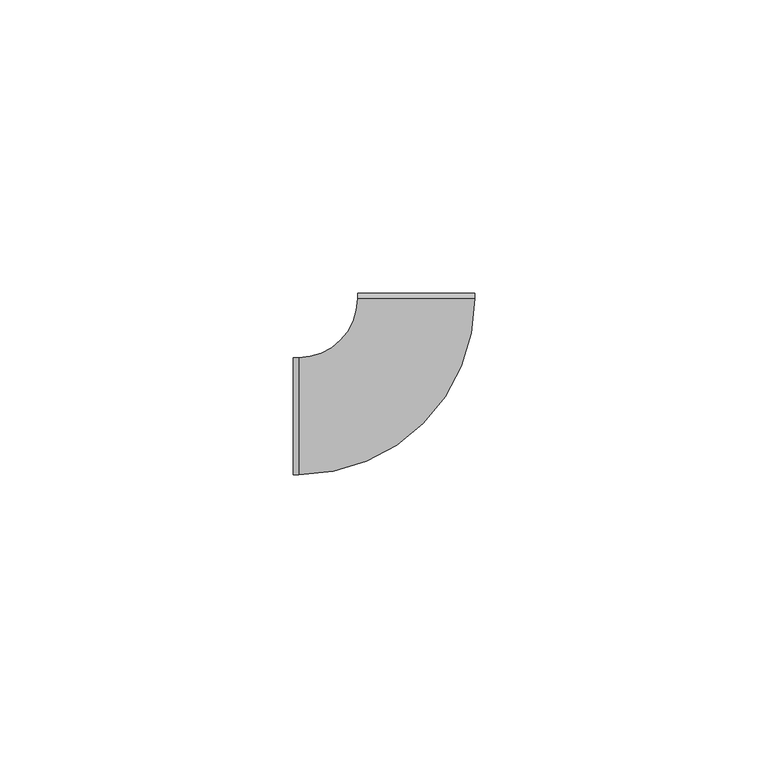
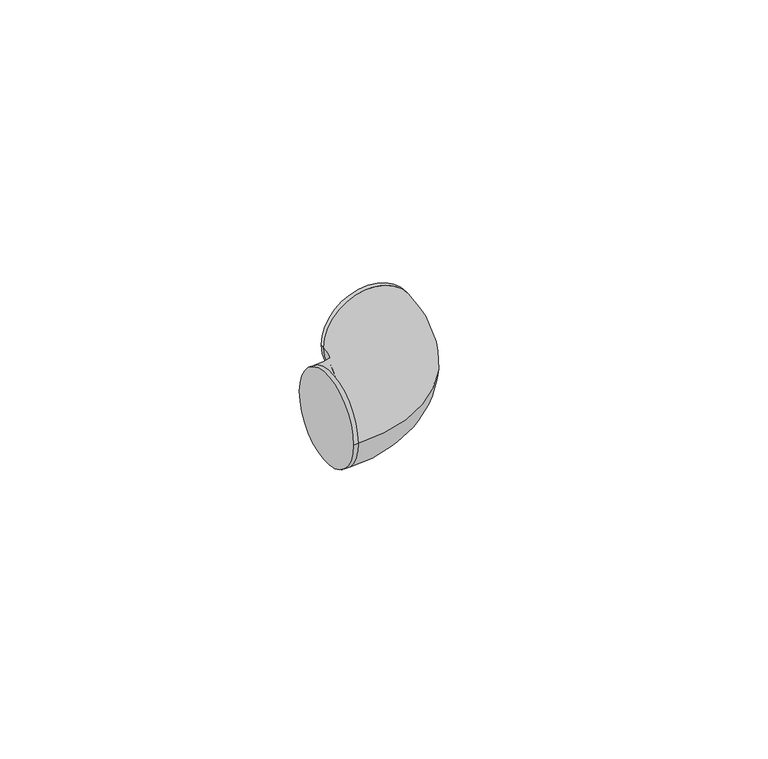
"""IFC4 building model written with IfcOpenShell, lengths in millimetres: cable carrier fitting geometry, ADSK_Поворот_Минимальный размер : Неспецифицируемый."""

import ifcopenshell
import ifcopenshell.guid

model = None  # the IFC model being written
_history = None  # IfcOwnerHistory: only IFC2X3 demands one
_inside = {}  # id of a spatial element -> (the spatial element, [elements in it])
_under = {}  # id of a project, library or spatial element -> (it, [spatial elements below it])
_declared = {}  # id of a project -> (the project, [libraries it declares])
_typed = {}  # id of a type object -> (the type object, [elements of that type])
_made_of = {}  # id of a material, layer set ... -> (it, [elements and type objects made of it])


def new_model(schema):
    """Start an empty IFC model of exactly this schema.

    Asked for "IFC4X3", IfcOpenShell would pick the latest addendum, in which some entities
    have other attributes; the version numbers below select the first issue.
    IFC2X3 requires an IfcOwnerHistory on every rooted entity: one is made here for all.
    """
    global model, _history
    if schema == "IFC4X3":
        model = ifcopenshell.file(schema_version=(4, 3, 0, 0))
    else:
        model = ifcopenshell.file(schema=schema)
    _inside.clear()
    _under.clear()
    _declared.clear()
    _typed.clear()
    _made_of.clear()
    _history = None
    if model.schema == "IFC2X3":
        org = make("IfcOrganization", Name="unknown")
        user = make(
            "IfcPersonAndOrganization",
            ThePerson=make("IfcPerson", FamilyName="unknown"),
            TheOrganization=org,
        )
        app = make(
            "IfcApplication",
            ApplicationDeveloper=org,
            Version="unknown",
            ApplicationFullName="unknown",
            ApplicationIdentifier="unknown",
        )
        _history = make(
            "IfcOwnerHistory",
            OwningUser=user,
            OwningApplication=app,
            ChangeAction="ADDED",
            CreationDate=0,
        )
    return model


def make(cls, **values):
    """One entity of the class cls with the attributes given. An attribute that is None is left unset."""
    return model.create_entity(
        cls, **{name: value for name, value in values.items() if value is not None}
    )


def rooted(cls, **values):
    """An entity with a GlobalId (a new one), such as an element, a storey or a relation."""
    return make(cls, GlobalId=ifcopenshell.guid.new(), OwnerHistory=_history, **values)


def si_unit(unit_type, name, prefix=None):
    """IfcSIUnit, for example si_unit("LENGTHUNIT", "METRE", prefix="MILLI")."""
    return make("IfcSIUnit", UnitType=unit_type, Prefix=prefix, Name=name)


def assignment(units):
    """IfcUnitAssignment: the units of a project."""
    return None if units is None else make("IfcUnitAssignment", Units=units)


def point(xyz):
    """IfcCartesianPoint."""
    return None if xyz is None else make("IfcCartesianPoint", Coordinates=xyz)


def direction(xyz):
    """IfcDirection."""
    return None if xyz is None else make("IfcDirection", DirectionRatios=xyz)


def frame(location, z_axis=None, x_axis=None):
    """IfcAxis2Placement3D, a coordinate frame: its origin and axes. An axis left out is left unset."""
    return make(
        "IfcAxis2Placement3D",
        Location=point(location),
        Axis=direction(z_axis),
        RefDirection=direction(x_axis),
    )


def origin():
    """The frame at (0, 0, 0) with its axes left unset."""
    return frame((0.0, 0.0, 0.0))


def place(relative_to, where):
    """IfcLocalPlacement: puts the frame where relative to a parent placement (None: the world)."""
    return make(
        "IfcLocalPlacement", PlacementRelTo=relative_to, RelativePlacement=where
    )


def context(
    kind, dimensions, precision=None, world=None, true_north=None, identifier=None
):
    """IfcGeometricRepresentationContext, for example the 3D "Model" context."""
    return make(
        "IfcGeometricRepresentationContext",
        ContextIdentifier=identifier,
        ContextType=kind,
        CoordinateSpaceDimension=dimensions,
        Precision=precision,
        WorldCoordinateSystem=world,
        TrueNorth=true_north,
    )


def project(units=None, contexts=None):
    """IfcProject with its units and contexts."""
    return rooted(
        "IfcProject",
        Name="project",
        RepresentationContexts=contexts,
        UnitsInContext=assignment(units),
    )


def spatial(cls, under=None, at=None, **own):
    """A site, building, storey or space (cls), placed at a placement, below another one or the project."""
    s = rooted(cls, ObjectPlacement=at, **own)
    if under is not None:
        _under.setdefault(under.id(), (under, []))[1].append(s)
    return s


def circle_curve(where, radius):
    """IfcCircle in the frame where."""
    return make("IfcCircle", Position=where, Radius=radius)


def ellipse_curve(where, semi_axis1, semi_axis2):
    """IfcEllipse in the frame where."""
    return make(
        "IfcEllipse", Position=where, SemiAxis1=semi_axis1, SemiAxis2=semi_axis2
    )


def trimmed(basis, trim1, trim2, sense, master):
    """IfcTrimmedCurve: the piece of a basis curve between two trims."""
    return make(
        "IfcTrimmedCurve",
        BasisCurve=basis,
        Trim1=trim1,
        Trim2=trim2,
        SenseAgreement=sense,
        MasterRepresentation=master,
    )


def shape(context_of_items, identifier, shape_type, items):
    """IfcShapeRepresentation: the items that make up one representation, for example the "Body"."""
    return make(
        "IfcShapeRepresentation",
        ContextOfItems=context_of_items,
        RepresentationIdentifier=identifier,
        RepresentationType=shape_type,
        Items=items,
    )


def source(mapping_origin, context_of_items, identifier, shape_type, items):
    """IfcRepresentationMap: a shape defined once, which mapped items show again and again."""
    return make(
        "IfcRepresentationMap",
        MappingOrigin=mapping_origin,
        MappedRepresentation=shape(context_of_items, identifier, shape_type, items),
    )


def transform(
    local_origin,
    x_axis=None,
    y_axis=None,
    z_axis=None,
    scale=None,
    scale2=None,
    scale3=None,
    uniform=True,
):
    """IfcCartesianTransformationOperator3D, or its non-uniform kind. x_axis, y_axis, z_axis: its Axis1, 2, 3."""
    if uniform:
        return make(
            "IfcCartesianTransformationOperator3D",
            Axis1=direction(x_axis),
            Axis2=direction(y_axis),
            LocalOrigin=point(local_origin),
            Scale=scale,
            Axis3=direction(z_axis),
        )
    return make(
        "IfcCartesianTransformationOperator3DnonUniform",
        Axis1=direction(x_axis),
        Axis2=direction(y_axis),
        LocalOrigin=point(local_origin),
        Scale=scale,
        Axis3=direction(z_axis),
        Scale2=scale2,
        Scale3=scale3,
    )


def mapped(mapping_source, mapping_target):
    """IfcMappedItem: shows the shape of a source again, moved by a transform."""
    return make(
        "IfcMappedItem", MappingSource=mapping_source, MappingTarget=mapping_target
    )


def made_of(thing, what):
    """Note that an element or type object is made of a material, layer set ...; save() writes the relation."""
    if what is not None:
        _made_of.setdefault(what.id(), (what, []))[1].append(thing)
    return thing


def element(
    cls,
    number,
    at=None,
    inside=None,
    cuts=None,
    type_object=None,
    material=None,
    context=None,
    identifier="Body",
    shape_type=None,
    held_by="IfcProductDefinitionShape",
    body=None,
    shapes=None,
    **own,
):
    """One element of the class cls, such as IfcWall. Its Tag is "e" and its number.

    at: its placement. inside: the storey or other place that contains it. cuts: it is an
    opening in that element (IfcRelVoidsElement). A single representation is given by context,
    identifier, shape_type and body (its items); several are given by shapes. held_by: the class
    of the entity that holds the representations. save() writes the other relations.
    """
    e = rooted(cls, Tag="e%d" % number, ObjectPlacement=at, **own)
    if body is not None:
        shapes = [shape(context, identifier, shape_type, body)]
    if shapes is not None:
        e.Representation = make(held_by, Representations=shapes)
    if inside is not None:
        _inside.setdefault(inside.id(), (inside, []))[1].append(e)
    if cuts is not None:
        rooted(
            "IfcRelVoidsElement", RelatingBuildingElement=cuts, RelatedOpeningElement=e
        )
    if type_object is not None:
        _typed.setdefault(type_object.id(), (type_object, []))[1].append(e)
    return made_of(e, material)


def aggregate(whole, parts):
    """IfcRelAggregates: a whole, such as a stair, and the parts it consists of."""
    return rooted("IfcRelAggregates", RelatingObject=whole, RelatedObjects=parts)


def save(model, path):
    """Write the relations noted so far, then the file.

    IfcRelAggregates (storeys below a building ...), IfcRelContainedInSpatialStructure (elements
    in a storey), IfcRelDefinesByType, IfcRelAssociatesMaterial and IfcRelDeclares: one each for
    every whole, place, type object, material and project.
    """
    for whole, parts in _under.values():
        aggregate(whole, parts)
    for where, things in _inside.values():
        rooted(
            "IfcRelContainedInSpatialStructure",
            RelatedElements=things,
            RelatingStructure=where,
        )
    for kind, things in _typed.values():
        rooted("IfcRelDefinesByType", RelatedObjects=things, RelatingType=kind)
    for what, things in _made_of.values():
        rooted("IfcRelAssociatesMaterial", RelatedObjects=things, RelatingMaterial=what)
    for by, libraries in _declared.values():
        rooted("IfcRelDeclares", RelatingContext=by, RelatedDefinitions=libraries)
    model.write(path)


def plane_surface(at):
    """IfcPlane: the flat surface through the origin of the frame at, square to its z axis."""
    return make("IfcPlane", Position=at)


def cylinder_surface(at, radius):
    """IfcCylindricalSurface: all points at the distance radius from the z axis of the frame at."""
    return make("IfcCylindricalSurface", Position=at, Radius=radius)


def revolved_surface(curve, axis_point, axis_direction):
    """IfcSurfaceOfRevolution: the curve turned about the line through axis_point along axis_direction."""
    return make(
        "IfcSurfaceOfRevolution",
        SweptCurve=make("IfcArbitraryOpenProfileDef", ProfileType="CURVE", Curve=curve),
        AxisPosition=make("IfcAxis1Placement", Location=point(axis_point), Axis=direction(axis_direction)),
    )


def advanced_brep(points, edges, surfaces, faces):
    """IfcAdvancedBrep: a solid bounded by faces that lie on surfaces and meet in shared edges.

    An edge is (start, end): straight between two places in points (the first is 0);
    or (start, end, curve); or (start, end, curve, False) where it runs against its curve.
    A face is (place in surfaces, loops), or (place, loops, False) where it looks against
    its surface's normal. A loop lists edges by number (the first is 1), with a minus sign
    where the edge is run from its end to its start. The first loop is the outer one.
    """
    corners = [point(p) for p in points]
    vertices = [make("IfcVertexPoint", VertexGeometry=c) for c in corners]
    made = []
    for start, end, *more in edges:
        made.append(
            make(
                "IfcEdgeCurve",
                EdgeStart=vertices[start],
                EdgeEnd=vertices[end],
                EdgeGeometry=more[0] if more else make("IfcPolyline", Points=[corners[start], corners[end]]),
                SameSense=more[1] if len(more) > 1 else True,
            )
        )
    hull = []
    for where, loops, *sense in faces:
        bounds = []
        for j, loop in enumerate(loops):
            ring = [make("IfcOrientedEdge", EdgeElement=made[abs(k) - 1], Orientation=k > 0) for k in loop]
            bounds.append(
                make(
                    "IfcFaceOuterBound" if j == 0 else "IfcFaceBound",
                    Bound=make("IfcEdgeLoop", EdgeList=ring),
                    Orientation=True,
                )
            )
        hull.append(make("IfcAdvancedFace", Bounds=bounds, FaceSurface=surfaces[where], SameSense=sense[0] if sense else True))
    return make("IfcAdvancedBrep", Outer=make("IfcClosedShell", CfsFaces=hull))


def cable_carrier_fitting_69f1a801(model_context):
    return source(origin(), model_context, "Body", "AdvancedBrep", [
        advanced_brep(
        [(-21.0, -10.0, 0.0), (-21.0, 10.0, 0.0), (-20.0, -10.0, 0.0), (-20.0, 10.0, 0.0), (-10.0, 20.0, 0.0), (10.0, 20.0, 0.0), (10.0, 21.0, 0.0), (-10.0, 21.0, 0.0)],
        [
            (0, 1, circle_curve(frame((-21.0, 0.0, 0.0), z_axis=(-1.0, -4.92260399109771e-12, 0.0), x_axis=(-4.92260399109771e-12, 1.0, 0.0)), 10.0)),
            (1, 0, circle_curve(frame((-21.0, 0.0, 0.0), z_axis=(-1.0, -4.92260399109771e-12, 0.0), x_axis=(-4.92260399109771e-12, 1.0, 0.0)), 10.0)),
            (0, 2),
            (2, 3, circle_curve(frame((-20.0, 0.0, 0.0), z_axis=(-1.0, -4.92260399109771e-12, 0.0), x_axis=(-4.92260399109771e-12, 1.0, 0.0)), 10.0)),
            (3, 1),
            (3, 2, circle_curve(frame((-20.0, 0.0, 0.0), z_axis=(-1.0, -4.92260399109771e-12, 0.0), x_axis=(-4.92260399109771e-12, 1.0, 0.0)), 10.0)),
            (4, 3, circle_curve(frame((-20.0, 20.0, 0.0), z_axis=(0.0, 0.0, -1.0), x_axis=(0.0, -1.0, 0.0)), 10.0)),
            (2, 5, circle_curve(frame((-20.0, 20.0, 0.0), z_axis=(0.0, 0.0, 1.0), x_axis=(0.0, -1.0, 0.0)), 30.0)),
            (5, 4, circle_curve(frame((0.0, 20.0, 0.0), z_axis=(0.0, -1.0, 0.0), x_axis=(-1.0, 0.0, 0.0)), 10.0)),
            (4, 5, circle_curve(frame((0.0, 20.0, 0.0), z_axis=(0.0, -1.0, 0.0), x_axis=(-1.0, 0.0, 0.0)), 10.0)),
            (6, 7, circle_curve(frame((0.0, 21.0, 0.0), z_axis=(0.0, 1.0, 0.0), x_axis=(-1.0, 0.0, 0.0)), 10.0)),
            (7, 6, circle_curve(frame((0.0, 21.0, 0.0), z_axis=(0.0, 1.0, 0.0), x_axis=(-1.0, 0.0, 0.0)), 10.0)),
            (5, 6),
            (7, 4),
        ],
        [
            plane_surface(frame((-21.0, 0.0, 0.0), z_axis=(-1.0, -4.92260399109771e-12, 0.0), x_axis=(0.0, 0.0, 1.0))),
            cylinder_surface(frame((-21.0, 0.0, 0.0), z_axis=(-1.0, -4.92260399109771e-12, 0.0), x_axis=(-4.92260399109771e-12, 1.0, 0.0)), 10.0),
            revolved_surface(trimmed(ellipse_curve(frame((-20.0, 0.0, 0.0), z_axis=(-1.0, 0.0, 0.0), x_axis=(0.0, 1.0, 0.0)), 10.0, 10.0), [point((-20.0, -10.0, 0.0))], [point((-20.0, 10.0, 0.0))], True, "CARTESIAN"), (-20.0, 20.0, 0.0), (0.0, 0.0, 1.0)),
            revolved_surface(trimmed(ellipse_curve(frame((-20.0, 0.0, 0.0), z_axis=(-1.0, 0.0, 0.0), x_axis=(0.0, 1.0, 0.0)), 10.0, 10.0), [point((-20.0, 10.0, 0.0))], [point((-20.0, -10.0, 0.0))], True, "CARTESIAN"), (-20.0, 20.0, 0.0), (0.0, 0.0, 1.0)),
            plane_surface(frame((0.0, 21.0, 0.0), z_axis=(0.0, 1.0, 0.0), x_axis=(0.0, 0.0, 1.0))),
            cylinder_surface(frame((0.0, 20.0, 0.0), z_axis=(0.0, -1.0, 0.0), x_axis=(-1.0, 0.0, 0.0)), 10.0),
        ],
        [
            (0, [[1, 2]]),
            (1, [[-1, 3, 4, 5]]),
            (1, [[-2, -5, 6, -3]]),
            (2, [[7, -4, 8, 9]]),
            (3, [[-8, -6, -7, 10]]),
            (4, [[11, 12]]),
            (5, [[-9, 13, -12, 14]]),
            (5, [[-10, -14, -11, -13]]),
        ],
    ),
    ])


if __name__ == "__main__":
    model = new_model("IFC4")
    model_context = context("Model", 3, world=origin())
    ifc_project = project(units=[si_unit("LENGTHUNIT", "METRE", prefix="MILLI")], contexts=[model_context])
    site = spatial("IfcSite", under=ifc_project)
    building = spatial("IfcBuilding", under=site)
    placement = place(None, origin())
    cable_carrier_fitting_shape = cable_carrier_fitting_69f1a801(model_context)
    element("IfcCableCarrierFitting", 1, ObjectType="ADSK_Поворот_Минимальный размер : Неспецифицируемый", at=placement, inside=building, context=model_context, shape_type="MappedRepresentation", body=[
        mapped(cable_carrier_fitting_shape, transform((0.0, 0.0, 0.0), x_axis=(1.0, 0.0, 0.0), y_axis=(0.0, 1.0, 0.0), z_axis=(0.0, 0.0, 1.0))),
    ])
    save(model, "model.ifc")
